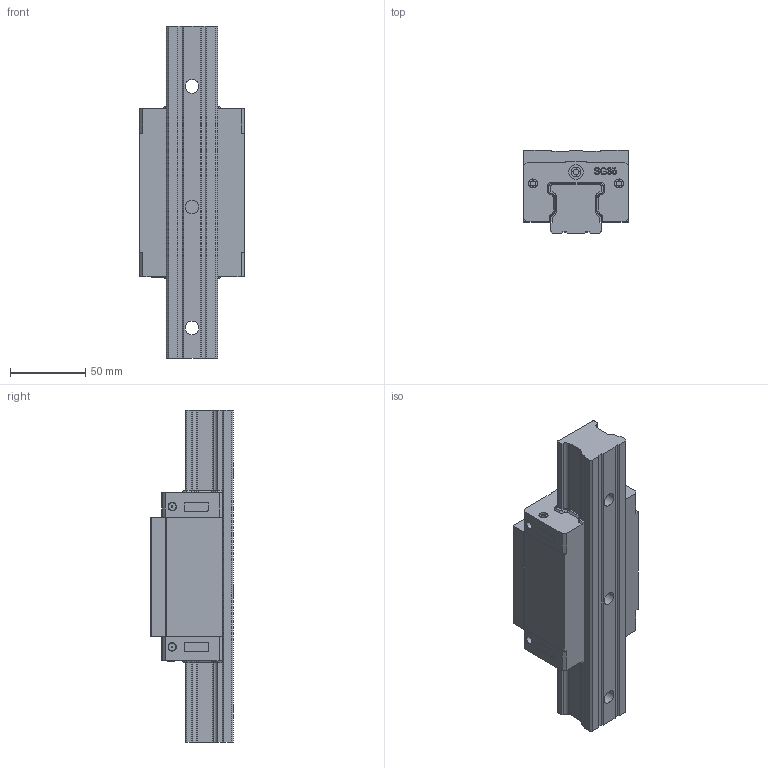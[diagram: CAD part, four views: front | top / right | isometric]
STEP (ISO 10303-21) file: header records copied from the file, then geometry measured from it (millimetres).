
FILE_DESCRIPTION(/* description */ (''),/* implementation_level */ '2;1');
FILE_NAME(/* name */ 'SGH35B.stp',/* time_stamp */ '2021-05-27T16:20:09+08:00',/* author */ (''),/* organization */ (''),/* preprocessor_version */ 'ST-DEVELOPER v15',/* originating_system */ 'SIEMENS PLM Software NX 8.5',/* authorisation */ '');
FILE_SCHEMA (('CONFIG_CONTROL_DESIGN'));
Length unit declared in the file: millimetre
Products named in the file (1): SGH35B
Bounding box: 70 x 55 x 220 mm (x, y, z)
Volume: 464041.8 mm3; surface area: 76223.5 mm2
Topology: 2 solids, 2 shells, 448 faces, 1206 edges, 803 vertices
Faces by surface type: plane 199, extrusion 122, cylinder 88, cone 39
Full cylindrical faces by diameter (mm): 1 x4, 3.5 x4, 4 x2, 5 x4, 6 x4, 6.5 x2, 6.8 x4, 9 x3, 9.5 x2, 14 x3
Entity records: 16614 total; most frequent: CARTESIAN_POINT 5813, ORIENTED_EDGE 2310, DIRECTION 1886, EDGE_CURVE 1155, VERTEX_POINT 795, VECTOR 746, LINE 624, AXIS2_PLACEMENT_3D 570
